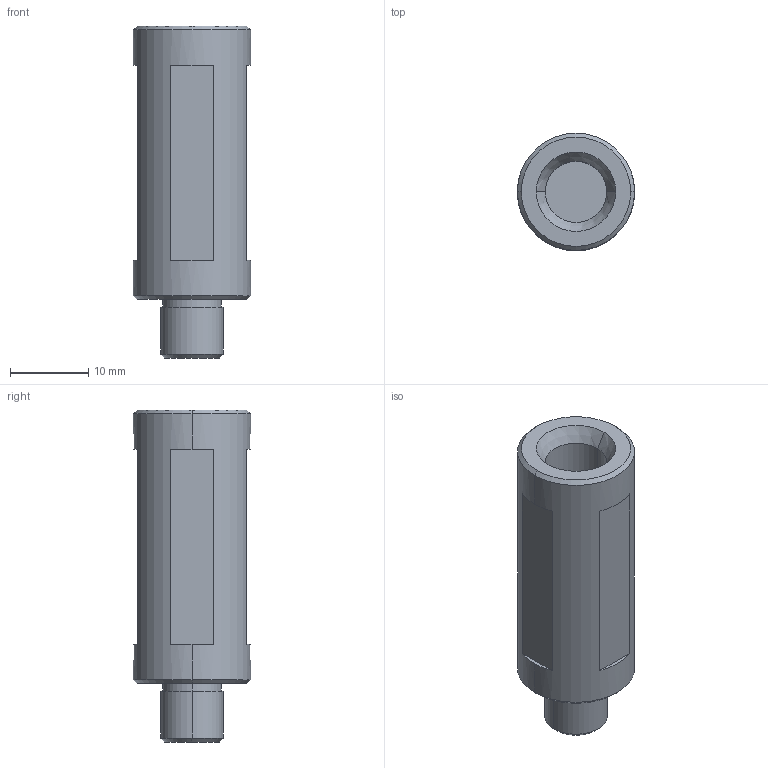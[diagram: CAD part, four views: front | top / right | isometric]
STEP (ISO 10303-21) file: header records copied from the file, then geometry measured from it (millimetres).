
FILE_DESCRIPTION(('CATIA V5 STEP Exchange'),'2;1');
FILE_NAME('D:\姚明阳\1、工装图纸\VDC压堵盖\工装数模和图纸\AGZ134.03_V1.stp','2025-04-25T05:37:02+00:00',('none'),('none'),'CATIA Version 5 Release 21 GA (IN-10)','CATIA V5 STEP AP214','none');
FILE_SCHEMA(('AUTOMOTIVE_DESIGN { 1 0 10303 214 1 1 1 1 }'));
Length unit declared in the file: millimetre
Products named in the file (1): AGZ134.03_V1
Bounding box: 15 x 15 x 42.5 mm (x, y, z)
Volume: 4862.2 mm3; surface area: 2925.3 mm2
Topology: 1 solids, 1 shells, 36 faces, 77 edges, 49 vertices
Faces by surface type: plane 18, cylinder 10, cone 8
Entity records: 907 total; most frequent: ORIENTED_EDGE 154, CARTESIAN_POINT 151, DIRECTION 125, EDGE_CURVE 77, AXIS2_PLACEMENT_3D 65, VERTEX_POINT 49, EDGE_LOOP 42, CIRCLE 40
